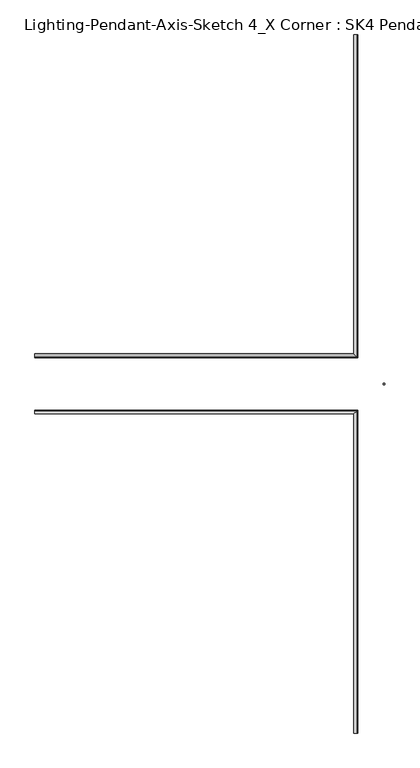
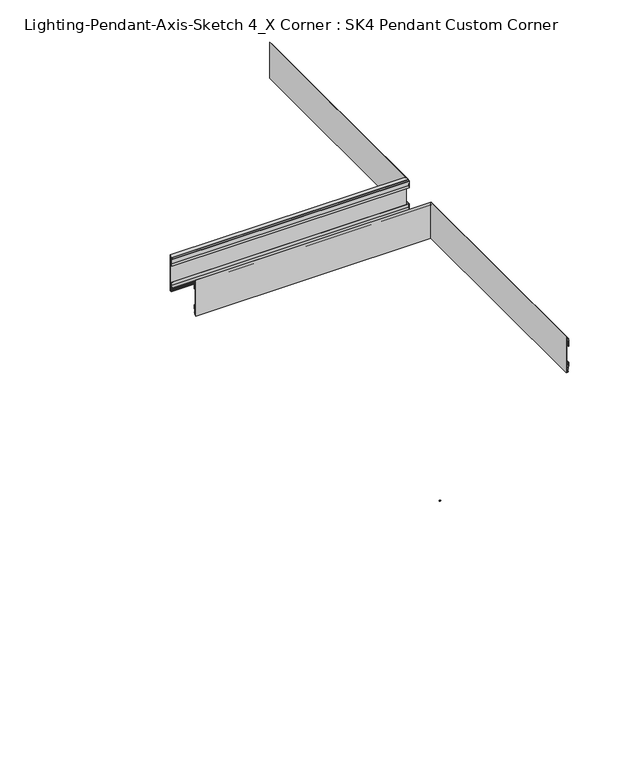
"""IFC4 building model written with IfcOpenShell, lengths in millimetres: light fixture geometry, Lighting-Pendant-Axis-Sketch 4_X Corner : SK4 Pendant Custom Corner."""

from ifc_helpers import new_model, si_unit, point, frame, origin, origin_2d, place, context, project, spatial, polyline, circle_curve, ellipse_curve, trimmed, segment, composite_curve, outline, extrude, faceted_brep, source, transform, mapped, element, save
from ifc_brep_helpers import plane_surface, cylinder_surface, revolved_surface, advanced_brep


def lighting_pendant_axis_sketch_4_x_corner_sk4_pendant_custom_94ffdf92(model_context):
    return source(origin(), model_context, "Body", "SolidModel", [
        faceted_brep([(-609.6, -52.387502, 608.1183333), (-609.6, -52.387502, 698.5705614), (-609.6, -47.9424983, 694.1255577), (-609.6, -50.4824984, 694.1255577), (-609.6, -50.4824984, 610.0233333), (-609.6, -48.5749867, 610.0233333), (-609.6, -48.5749867, 611.2933333), (-609.6, -47.3074984, 611.2933333), (-609.6, -47.3074984, 609.6312495), (-609.6, -48.8649121, 608.1183333), (-52.387502, -609.6, 608.1183333), (-48.8649121, -609.6, 608.1183333), (-47.3074984, -609.6, 609.6312495), (-47.3074984, -609.6, 611.2933333), (-48.5749867, -609.6, 611.2933333), (-48.5749867, -609.6, 610.0233333), (-50.4824984, -609.6, 610.0233333), (-50.4824984, -609.6, 694.1255577), (-47.9424983, -609.6, 694.1255577), (-52.387502, -609.6, 698.5705614), (-52.387502, -52.387502, 608.1183333), (-52.387502, -52.387502, 698.5705614), (-47.9424983, -47.9424983, 694.1255577), (-50.4824984, -50.4824984, 694.1255577), (-50.4824984, -50.4824984, 610.0233333), (-48.5749867, -48.5749867, 610.0233333), (-48.5749867, -48.5749867, 611.2933333), (-47.3074984, -47.3074984, 611.2933333), (-47.3074984, -47.3074984, 609.6312495), (-48.8649121, -48.8649121, 608.1183333)], [[[0, 1, 2, 3, 4, 5, 6, 7, 8, 9]], [[10, 11, 12, 13, 14, 15, 16, 17, 18, 19]], [[1, 0, 20, 21]], [[2, 1, 21, 22]], [[3, 2, 22, 18, 17, 23]], [[4, 3, 23, 24]], [[5, 4, 24, 16, 15, 25]], [[6, 5, 25, 26]], [[7, 6, 26, 14, 13, 27]], [[8, 7, 27, 28]], [[9, 8, 28, 29]], [[0, 9, 29, 11, 10, 20]], [[21, 20, 10, 19]], [[22, 21, 19, 18]], [[24, 23, 17, 16]], [[26, 25, 15, 14]], [[28, 27, 13, 12]], [[29, 28, 12, 11]]]),
        advanced_brep(
        [(-609.6, -47.7623797, 617.2181133), (-609.6, -47.203689, 626.6227718), (-609.6, -47.1663883, 632.7774986), (-609.6, -46.1433321, 632.7774986), (-609.6, -46.2138897, 626.1805556), (-609.6, -46.8043106, 616.3008472), (-609.6, -48.3048304, 616.3008472), (-609.6, -48.9655543, 615.7383333), (-609.6, -48.9062894, 614.1085157), (-609.6, -46.5723819, 614.1933833), (-609.6, -48.2952793, 612.3516667), (-609.6, -49.9180536, 613.3747222), (-609.6, -49.9533335, 615.7030556), (-47.7623797, -609.6, 617.2181133), (-49.9533335, -609.6, 615.7030556), (-49.9180536, -609.6, 613.3747222), (-48.2952793, -609.6, 612.3516667), (-46.5723819, -609.6, 614.1933833), (-48.9062894, -609.6, 614.1085157), (-48.9655543, -609.6, 615.7383333), (-48.3048304, -609.6, 616.3008472), (-46.8043106, -609.6, 616.3008472), (-46.2138897, -609.6, 626.1805556), (-46.1433321, -609.6, 632.7774986), (-47.1663883, -609.6, 632.7774986), (-47.203689, -609.6, 626.6227718), (-47.7623797, -47.7623797, 617.2181133), (-47.203689, -47.203689, 626.6227718), (-47.1663883, -47.1663883, 632.7774986), (-46.1433321, -46.1433321, 632.7774986), (-46.2138897, -46.2138897, 626.1805556), (-46.8043106, -46.8043106, 616.3008472), (-48.3048304, -48.3048304, 616.3008472), (-48.9655543, -48.9655543, 615.7383333), (-48.9062894, -48.9062894, 614.1085157), (-46.5723819, -46.5723819, 614.1933833), (-48.2952793, -48.2952793, 612.3516667), (-49.9180536, -49.9180536, 613.3747222), (-49.9533335, -49.9533335, 615.7030556)],
        [
            (0, 1),
            (1, 2),
            (2, 3),
            (3, 4),
            (4, 5),
            (5, 6),
            (6, 7, circle_curve(frame((-609.6, -48.3048304, 615.63155), z_axis=(1.0, 0.0, 0.0), x_axis=(0.0, 1.0, 0.0)), 0.6692972)),
            (7, 8),
            (8, 9),
            (9, 10),
            (10, 11, circle_curve(frame((-609.6, -48.7732449, 613.3920688), z_axis=(-1.0, 0.0, 0.0), x_axis=(0.0, 1.0, 0.0)), 1.1449401)),
            (11, 12),
            (12, 0, circle_curve(frame((-609.6, -48.3340208, 615.7030556), z_axis=(-1.0, 0.0, 0.0), x_axis=(0.0, 1.0, 0.0)), 1.6193127)),
            (13, 14, circle_curve(frame((-48.3340208, -609.6, 615.7030556), z_axis=(0.0, -1.0, 0.0), x_axis=(1.0, 0.0, 0.0)), 1.6193127)),
            (14, 15),
            (15, 16, circle_curve(frame((-48.7732449, -609.6, 613.3920688), z_axis=(0.0, -1.0, 0.0), x_axis=(1.0, 0.0, 0.0)), 1.1449401)),
            (16, 17),
            (17, 18),
            (18, 19),
            (19, 20, circle_curve(frame((-48.3048304, -609.6, 615.63155), z_axis=(0.0, 1.0, 0.0), x_axis=(1.0, 0.0, 0.0)), 0.6692972)),
            (20, 21),
            (21, 22),
            (22, 23),
            (23, 24),
            (24, 25),
            (25, 13),
            (0, 26),
            (26, 27),
            (27, 1),
            (27, 28),
            (28, 2),
            (28, 24),
            (23, 29),
            (29, 3),
            (29, 30),
            (30, 4),
            (30, 31),
            (31, 5),
            (31, 21),
            (20, 32),
            (32, 6),
            (32, 33, ellipse_curve(frame((-48.3048304, -48.3048304, 615.63155), z_axis=(0.7071067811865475, -0.7071067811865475, 0.0), x_axis=(0.7071067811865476, 0.7071067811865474, 0.0)), 0.9465291, 0.6692972)),
            (33, 7),
            (33, 34),
            (34, 8),
            (34, 35),
            (35, 9),
            (35, 36),
            (36, 10),
            (36, 37, ellipse_curve(frame((-48.7732449, -48.7732449, 613.3920688), z_axis=(-0.7071067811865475, 0.7071067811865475, 0.0), x_axis=(-0.7071067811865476, -0.7071067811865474, 0.0)), 1.6191898, 1.1449401)),
            (37, 11),
            (37, 38),
            (38, 12),
            (38, 26, ellipse_curve(frame((-48.3340208, -48.3340208, 615.7030556), z_axis=(-0.7071067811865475, 0.7071067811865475, 0.0), x_axis=(-0.7071067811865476, -0.7071067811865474, 0.0)), 2.290054, 1.6193127)),
            (26, 13),
            (25, 27),
            (22, 30),
            (19, 33),
            (18, 34),
            (17, 35),
            (16, 36),
            (15, 37),
            (14, 38),
        ],
        [
            plane_surface(frame((-609.6, 0.0, 609.6), z_axis=(-1.0, 0.0, 0.0), x_axis=(0.0, 0.0, 1.0))),
            plane_surface(frame((0.0, -609.6, 609.6), z_axis=(0.0, -1.0, 0.0), x_axis=(0.0, 0.0, 1.0))),
            plane_surface(frame((-609.6, -47.7623797, 617.2181133), z_axis=(0.0, -0.9982401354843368, 0.05930119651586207), x_axis=(1.0, 0.0, 0.0))),
            plane_surface(frame((-609.6, -47.203689, 626.6227718), z_axis=(0.0, -0.999981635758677, 0.006060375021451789), x_axis=(1.0, 0.0, 0.0))),
            plane_surface(frame((-609.6, -47.1663883, 632.7774986), z_axis=(0.0, 0.0, 1.0), x_axis=(1.0, 0.0, 0.0))),
            plane_surface(frame((-609.6, -46.1433321, 632.7774986), z_axis=(0.0, 0.9999428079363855, -0.010694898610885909), x_axis=(1.0, 0.0, 0.0))),
            plane_surface(frame((-609.6, -46.2138897, 626.1805556), z_axis=(0.0, 0.998219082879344, -0.05965452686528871), x_axis=(1.0, 0.0, 0.0))),
            plane_surface(frame((-609.6, -46.8043106, 616.3008472), z_axis=(0.0, 0.0, -1.0), x_axis=(1.0, 0.0, 0.0))),
            revolved_surface(polyline([(-47.63553325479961, -47.6355332, 615.63155), (-609.6, -47.6355332, 615.63155)]), (-609.6, -48.3048304, 615.63155), (1.0, 0.0, 0.0)),
            plane_surface(frame((-609.6, -48.9655543, 615.7383333), z_axis=(0.0, 0.9993395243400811, 0.03633889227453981), x_axis=(1.0, 0.0, 0.0))),
            plane_surface(frame((-609.6, -48.9062894, 614.1085157), z_axis=(0.0, -0.036338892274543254, 0.9993395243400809), x_axis=(1.0, 0.0, 0.0))),
            plane_surface(frame((-609.6, -46.5723819, 614.1933833), z_axis=(0.0, 0.730271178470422, -0.6831573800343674), x_axis=(1.0, 0.0, 0.0))),
            cylinder_surface(frame((-609.6, -48.7732449, 613.3920688), z_axis=(-1.0, 0.0, 0.0), x_axis=(0.0, 1.0, 0.0)), 1.1449401),
            plane_surface(frame((-609.6, -49.9180536, 613.3747222), z_axis=(0.0, -0.9998852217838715, -0.015150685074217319), x_axis=(1.0, 0.0, 0.0))),
            cylinder_surface(frame((-609.6, -48.3340208, 615.7030556), z_axis=(-1.0, 0.0, 0.0), x_axis=(0.0, 1.0, 0.0)), 1.6193127),
            plane_surface(frame((-47.7623797, -47.7623797, 617.2181133), z_axis=(-0.9982401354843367, 0.0, 0.05930119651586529), x_axis=(0.0, -1.0, 0.0))),
            plane_surface(frame((-47.203689, -47.203689, 626.6227718), z_axis=(-0.999981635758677, 0.0, 0.006060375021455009), x_axis=(0.0, -1.0, 0.0))),
            plane_surface(frame((-46.1433321, -46.1433321, 632.7774986), z_axis=(0.9999428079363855, 0.0, -0.010694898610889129), x_axis=(0.0, -1.0, 0.0))),
            plane_surface(frame((-46.2138897, -46.2138897, 626.1805556), z_axis=(0.9982190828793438, 0.0, -0.05965452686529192), x_axis=(0.0, -1.0, 0.0))),
            revolved_surface(polyline([(-47.6355332, -609.6, 615.63155), (-47.6355332, -47.6355332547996, 615.63155)]), (-48.3048304, 0.0, 615.63155), (0.0, -1.0, 0.0)),
            plane_surface(frame((-48.9655543, -48.9655543, 615.7383333), z_axis=(0.9993395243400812, 0.0, 0.03633889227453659), x_axis=(0.0, -1.0, 0.0))),
            plane_surface(frame((-48.9062894, -48.9062894, 614.1085157), z_axis=(-0.03633889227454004, 0.0, 0.9993395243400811), x_axis=(0.0, -1.0, 0.0))),
            plane_surface(frame((-46.5723819, -46.5723819, 614.1933833), z_axis=(0.7302711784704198, 0.0, -0.6831573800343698), x_axis=(0.0, -1.0, 0.0))),
            cylinder_surface(frame((-48.7732449, 0.0, 613.3920688), z_axis=(0.0, 1.0, 0.0), x_axis=(1.0, 0.0, 0.0)), 1.1449401),
            plane_surface(frame((-49.9180536, -49.9180536, 613.3747222), z_axis=(-0.9998852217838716, 0.0, -0.0151506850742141), x_axis=(0.0, -1.0, 0.0))),
            cylinder_surface(frame((-48.3340208, 0.0, 615.7030556), z_axis=(0.0, 1.0, 0.0), x_axis=(1.0, 0.0, 0.0)), 1.6193127),
        ],
        [
            (0, [[1, 2, 3, 4, 5, 6, 7, 8, 9, 10, 11, 12, 13]]),
            (1, [[14, 15, 16, 17, 18, 19, 20, 21, 22, 23, 24, 25, 26]]),
            (2, [[-1, 27, 28, 29]]),
            (3, [[-2, -29, 30, 31]]),
            (4, [[-3, -31, 32, -24, 33, 34]]),
            (5, [[-4, -34, 35, 36]]),
            (6, [[-5, -36, 37, 38]]),
            (7, [[-6, -38, 39, -21, 40, 41]]),
            (8, [[-7, -41, 42, 43]]),
            (9, [[-8, -43, 44, 45]]),
            (10, [[-9, -45, 46, 47]]),
            (11, [[-10, -47, 48, 49]]),
            (12, [[-11, -49, 50, 51]]),
            (13, [[-12, -51, 52, 53]]),
            (14, [[-13, -53, 54, -27]]),
            (15, [[-28, 55, -26, 56]]),
            (16, [[-30, -56, -25, -32]]),
            (17, [[-35, -33, -23, 57]]),
            (18, [[-37, -57, -22, -39]]),
            (19, [[-42, -40, -20, 58]]),
            (20, [[-44, -58, -19, 59]]),
            (21, [[-46, -59, -18, 60]]),
            (22, [[-48, -60, -17, 61]]),
            (23, [[-50, -61, -16, 62]]),
            (24, [[-52, -62, -15, 63]]),
            (25, [[-54, -63, -14, -55]]),
        ],
    ),
        advanced_brep(
        [(-609.6, -47.1044268, 679.4782704), (-609.6, -47.2795148, 688.3201765), (-609.6, -49.4241668, 690.1038875), (-609.6, -49.2830578, 692.4322236), (-609.6, -47.6250008, 693.3847222), (-609.6, -45.9802057, 691.5049613), (-609.6, -48.3121579, 691.6345118), (-609.6, -48.4283489, 689.5430339), (-609.6, -46.305025, 689.3731705), (-609.6, -46.1087781, 679.4627439), (-609.6, -46.318589, 672.9236111), (-609.6, -47.3427772, 672.9236111), (-47.1044268, -609.6, 679.4782704), (-47.3427772, -609.6, 672.9236111), (-46.318589, -609.6, 672.9236111), (-46.1087781, -609.6, 679.4627439), (-46.305025, -609.6, 689.3731705), (-48.4283489, -609.6, 689.5430339), (-48.3121579, -609.6, 691.6345118), (-45.9802057, -609.6, 691.5049613), (-47.6250008, -609.6, 693.3847222), (-49.2830578, -609.6, 692.4322236), (-49.4241668, -609.6, 690.1038875), (-47.2795148, -609.6, 688.3201765), (-47.1044268, -47.1044268, 679.4782704), (-47.2795148, -47.2795148, 688.3201765), (-49.4241668, -49.4241668, 690.1038875), (-49.2830578, -49.2830578, 692.4322236), (-47.6250008, -47.6250008, 693.3847222), (-45.9802057, -45.9802057, 691.5049613), (-48.3121579, -48.3121579, 691.6345118), (-48.4283489, -48.4283489, 689.5430339), (-46.305025, -46.305025, 689.3731705), (-46.1087781, -46.1087781, 679.4627439), (-46.318589, -46.318589, 672.9236111), (-47.3427772, -47.3427772, 672.9236111)],
        [
            (0, 1),
            (1, 2, circle_curve(frame((-609.6, -47.6971346, 689.9992206), z_axis=(-1.0, 0.0, 0.0), x_axis=(0.0, 1.0, 0.0)), 1.730201)),
            (2, 3),
            (3, 4, circle_curve(frame((-609.6, -48.1406669, 692.3629889), z_axis=(-1.0, 0.0, 0.0), x_axis=(0.0, 1.0, 0.0)), 1.144487)),
            (4, 5),
            (5, 6),
            (6, 7),
            (7, 8),
            (8, 9),
            (9, 10),
            (10, 11),
            (11, 0),
            (12, 13),
            (13, 14),
            (14, 15),
            (15, 16),
            (16, 17),
            (17, 18),
            (18, 19),
            (19, 20),
            (20, 21, circle_curve(frame((-48.1406669, -609.6, 692.3629889), z_axis=(0.0, -1.0, 0.0), x_axis=(1.0, 0.0, 0.0)), 1.144487)),
            (21, 22),
            (22, 23, circle_curve(frame((-47.6971346, -609.6, 689.9992206), z_axis=(0.0, -1.0, 0.0), x_axis=(1.0, 0.0, 0.0)), 1.730201)),
            (23, 12),
            (0, 24),
            (24, 25),
            (25, 1),
            (25, 26, ellipse_curve(frame((-47.6971346, -47.6971346, 689.9992206), z_axis=(-0.7071067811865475, 0.7071067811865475, 0.0), x_axis=(-0.7071067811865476, -0.7071067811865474, 0.0)), 2.4468737, 1.730201)),
            (26, 2),
            (26, 27),
            (27, 3),
            (27, 28, ellipse_curve(frame((-48.1406669, -48.1406669, 692.3629889), z_axis=(-0.7071067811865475, 0.7071067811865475, 0.0), x_axis=(-0.7071067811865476, -0.7071067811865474, 0.0)), 1.618549, 1.144487)),
            (28, 4),
            (28, 29),
            (29, 5),
            (29, 30),
            (30, 6),
            (30, 31),
            (31, 7),
            (31, 32),
            (32, 8),
            (32, 33),
            (33, 9),
            (33, 34),
            (34, 10),
            (34, 14),
            (13, 35),
            (35, 11),
            (35, 24),
            (24, 12),
            (23, 25),
            (22, 26),
            (21, 27),
            (20, 28),
            (19, 29),
            (18, 30),
            (17, 31),
            (16, 32),
            (15, 33),
        ],
        [
            plane_surface(frame((-609.6, 0.0, 609.6), z_axis=(-1.0, 0.0, 0.0), x_axis=(0.0, 0.0, 1.0))),
            plane_surface(frame((0.0, -609.6, 609.6), z_axis=(0.0, -1.0, 0.0), x_axis=(0.0, 0.0, 1.0))),
            plane_surface(frame((-609.6, -47.1044268, 679.4782704), z_axis=(0.0, -0.9998039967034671, -0.01979818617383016), x_axis=(1.0, 0.0, 0.0))),
            cylinder_surface(frame((-609.6, -47.6971346, 689.9992206), z_axis=(-1.0, 0.0, 0.0), x_axis=(0.0, 1.0, 0.0)), 1.730201),
            plane_surface(frame((-609.6, -49.4241668, 690.1038875), z_axis=(0.0, -0.9981685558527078, 0.06049408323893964), x_axis=(1.0, 0.0, 0.0))),
            cylinder_surface(frame((-609.6, -48.1406669, 692.3629889), z_axis=(-1.0, 0.0, 0.0), x_axis=(0.0, 1.0, 0.0)), 1.144487),
            plane_surface(frame((-609.6, -47.6250008, 693.3847222), z_axis=(0.0, 0.7525758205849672, 0.6585056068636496), x_axis=(1.0, 0.0, 0.0))),
            plane_surface(frame((-609.6, -45.9802057, 691.5049613), z_axis=(0.0, -0.055468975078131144, -0.9984604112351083), x_axis=(1.0, 0.0, 0.0))),
            plane_surface(frame((-609.6, -48.3121579, 691.6345118), z_axis=(0.0, 0.9984604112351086, -0.05546897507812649), x_axis=(1.0, 0.0, 0.0))),
            plane_surface(frame((-609.6, -48.4283489, 689.5430339), z_axis=(0.0, 0.07974403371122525, 0.996815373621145), x_axis=(1.0, 0.0, 0.0))),
            plane_surface(frame((-609.6, -46.305025, 689.3731705), z_axis=(0.0, 0.9998039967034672, 0.01979818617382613), x_axis=(1.0, 0.0, 0.0))),
            plane_surface(frame((-609.6, -46.1087781, 679.4627439), z_axis=(0.0, 0.9994856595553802, -0.03206893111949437), x_axis=(1.0, 0.0, 0.0))),
            plane_surface(frame((-609.6, -46.318589, 672.9236111), z_axis=(0.0, 0.0, -1.0), x_axis=(1.0, 0.0, 0.0))),
            plane_surface(frame((-609.6, -47.3427772, 672.9236111), z_axis=(0.0, -0.9993395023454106, 0.03633949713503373), x_axis=(1.0, 0.0, 0.0))),
            plane_surface(frame((-47.1044268, -47.1044268, 679.4782704), z_axis=(-0.9998039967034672, 0.0, -0.01979818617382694), x_axis=(0.0, -1.0, 0.0))),
            cylinder_surface(frame((-47.6971346, 0.0, 689.9992206), z_axis=(0.0, 1.0, 0.0), x_axis=(1.0, 0.0, 0.0)), 1.730201),
            plane_surface(frame((-49.4241668, -49.4241668, 690.1038875), z_axis=(-0.9981685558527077, 0.0, 0.06049408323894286), x_axis=(0.0, -1.0, 0.0))),
            cylinder_surface(frame((-48.1406669, 0.0, 692.3629889), z_axis=(0.0, 1.0, 0.0), x_axis=(1.0, 0.0, 0.0)), 1.144487),
            plane_surface(frame((-47.6250008, -47.6250008, 693.3847222), z_axis=(0.7525758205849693, 0.0, 0.6585056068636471), x_axis=(0.0, -1.0, 0.0))),
            plane_surface(frame((-45.9802057, -45.9802057, 691.5049613), z_axis=(-0.055468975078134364, 0.0, -0.9984604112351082), x_axis=(0.0, -1.0, 0.0))),
            plane_surface(frame((-48.3121579, -48.3121579, 691.6345118), z_axis=(0.9984604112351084, 0.0, -0.0554689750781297), x_axis=(0.0, -1.0, 0.0))),
            plane_surface(frame((-48.4283489, -48.4283489, 689.5430339), z_axis=(0.07974403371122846, 0.0, 0.9968153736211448), x_axis=(0.0, -1.0, 0.0))),
            plane_surface(frame((-46.305025, -46.305025, 689.3731705), z_axis=(0.9998039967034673, 0.0, 0.01979818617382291), x_axis=(0.0, -1.0, 0.0))),
            plane_surface(frame((-46.1087781, -46.1087781, 679.4627439), z_axis=(0.99948565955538, 0.0, -0.03206893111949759), x_axis=(0.0, -1.0, 0.0))),
            plane_surface(frame((-47.3427772, -47.3427772, 672.9236111), z_axis=(-0.9993395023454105, 0.0, 0.03633949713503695), x_axis=(0.0, -1.0, 0.0))),
        ],
        [
            (0, [[1, 2, 3, 4, 5, 6, 7, 8, 9, 10, 11, 12]]),
            (1, [[13, 14, 15, 16, 17, 18, 19, 20, 21, 22, 23, 24]]),
            (2, [[-1, 25, 26, 27]]),
            (3, [[-2, -27, 28, 29]]),
            (4, [[-3, -29, 30, 31]]),
            (5, [[-4, -31, 32, 33]]),
            (6, [[-5, -33, 34, 35]]),
            (7, [[-6, -35, 36, 37]]),
            (8, [[-7, -37, 38, 39]]),
            (9, [[-8, -39, 40, 41]]),
            (10, [[-9, -41, 42, 43]]),
            (11, [[-10, -43, 44, 45]]),
            (12, [[-11, -45, 46, -14, 47, 48]]),
            (13, [[-12, -48, 49, -25]]),
            (14, [[-26, 50, -24, 51]]),
            (15, [[-28, -51, -23, 52]]),
            (16, [[-30, -52, -22, 53]]),
            (17, [[-32, -53, -21, 54]]),
            (18, [[-34, -54, -20, 55]]),
            (19, [[-36, -55, -19, 56]]),
            (20, [[-38, -56, -18, 57]]),
            (21, [[-40, -57, -17, 58]]),
            (22, [[-42, -58, -16, 59]]),
            (23, [[-44, -59, -15, -46]]),
            (24, [[-49, -47, -13, -50]]),
        ],
    ),
        faceted_brep([(-52.387502, 609.6, 608.1183333), (-52.387502, 609.6, 698.5705614), (-47.9424983, 609.6, 694.1255577), (-50.4824984, 609.6, 694.1255577), (-50.4824984, 609.6, 610.0233333), (-48.5749867, 609.6, 610.0233333), (-48.5749867, 609.6, 611.2933333), (-47.3074984, 609.6, 611.2933333), (-47.3074984, 609.6, 609.6312495), (-48.8649121, 609.6, 608.1183333), (-52.387502, 52.387502, 608.1183333), (-52.387502, 52.387502, 698.5705614), (-47.9424983, 47.9424983, 694.1255577), (-609.6, 47.9424983, 694.1255577), (-609.6, 50.4824984, 694.1255577), (-50.4824984, 50.4824984, 694.1255577), (-50.4824984, 50.4824984, 610.0233333), (-609.6, 50.4824984, 610.0233333), (-609.6, 48.5749867, 610.0233333), (-48.5749867, 48.5749867, 610.0233333), (-48.5749867, 48.5749867, 611.2933333), (-609.6, 48.5749867, 611.2933333), (-609.6, 47.3074984, 611.2933333), (-47.3074984, 47.3074984, 611.2933333), (-47.3074984, 47.3074984, 609.6312495), (-48.8649121, 48.8649121, 608.1183333), (-609.6, 48.8649121, 608.1183333), (-609.6, 52.387502, 608.1183333), (-609.6, 47.3074984, 609.6312495), (-609.6, 52.387502, 698.5705614)], [[[0, 1, 2, 3, 4, 5, 6, 7, 8, 9]], [[1, 0, 10, 11]], [[2, 1, 11, 12]], [[3, 2, 12, 13, 14, 15]], [[4, 3, 15, 16]], [[5, 4, 16, 17, 18, 19]], [[6, 5, 19, 20]], [[7, 6, 20, 21, 22, 23]], [[8, 7, 23, 24]], [[9, 8, 24, 25]], [[0, 9, 25, 26, 27, 10]], [[27, 26, 28, 22, 21, 18, 17, 14, 13, 29]], [[11, 10, 27, 29]], [[12, 11, 29, 13]], [[16, 15, 14, 17]], [[20, 19, 18, 21]], [[24, 23, 22, 28]], [[25, 24, 28, 26]]]),
        advanced_brep(
        [(-47.7623797, 609.6, 617.2181133), (-47.203689, 609.6, 626.6227718), (-47.1663883, 609.6, 632.7774986), (-46.1433321, 609.6, 632.7774986), (-46.2138897, 609.6, 626.1805556), (-46.8043106, 609.6, 616.3008472), (-48.3048304, 609.6, 616.3008472), (-48.9655543, 609.6, 615.7383333), (-48.9062894, 609.6, 614.1085157), (-46.5723819, 609.6, 614.1933833), (-48.2952793, 609.6, 612.3516667), (-49.9180536, 609.6, 613.3747222), (-49.9533335, 609.6, 615.7030556), (-47.7623797, 47.7623797, 617.2181133), (-47.203689, 47.203689, 626.6227718), (-47.1663883, 47.1663883, 632.7774986), (-609.6, 47.1663883, 632.7774986), (-609.6, 46.1433321, 632.7774986), (-46.1433321, 46.1433321, 632.7774986), (-46.2138897, 46.2138897, 626.1805556), (-46.8043106, 46.8043106, 616.3008472), (-609.6, 46.8043106, 616.3008472), (-609.6, 48.3048304, 616.3008472), (-48.3048304, 48.3048304, 616.3008472), (-48.9655543, 48.9655543, 615.7383333), (-48.9062894, 48.9062894, 614.1085157), (-46.5723819, 46.5723819, 614.1933833), (-48.2952793, 48.2952793, 612.3516667), (-49.9180536, 49.9180536, 613.3747222), (-49.9533335, 49.9533335, 615.7030556), (-609.6, 47.7623797, 617.2181133), (-609.6, 49.9533335, 615.7030556), (-609.6, 49.9180536, 613.3747222), (-609.6, 48.2952793, 612.3516667), (-609.6, 46.5723819, 614.1933833), (-609.6, 48.9062894, 614.1085157), (-609.6, 48.9655543, 615.7383333), (-609.6, 46.2138897, 626.1805556), (-609.6, 47.203689, 626.6227718)],
        [
            (0, 1),
            (1, 2),
            (2, 3),
            (3, 4),
            (4, 5),
            (5, 6),
            (6, 7, circle_curve(frame((-48.3048304, 609.6, 615.63155), z_axis=(0.0, -1.0, 0.0), x_axis=(1.0, 0.0, 0.0)), 0.6692972)),
            (7, 8),
            (8, 9),
            (9, 10),
            (10, 11, circle_curve(frame((-48.7732449, 609.6, 613.3920688), z_axis=(0.0, 1.0, 0.0), x_axis=(1.0, 0.0, 0.0)), 1.1449401)),
            (11, 12),
            (12, 0, circle_curve(frame((-48.3340208, 609.6, 615.7030556), z_axis=(0.0, 1.0, 0.0), x_axis=(1.0, 0.0, 0.0)), 1.6193127)),
            (0, 13),
            (13, 14),
            (14, 1),
            (14, 15),
            (15, 2),
            (15, 16),
            (16, 17),
            (17, 18),
            (18, 3),
            (18, 19),
            (19, 4),
            (19, 20),
            (20, 5),
            (20, 21),
            (21, 22),
            (22, 23),
            (23, 6),
            (23, 24, ellipse_curve(frame((-48.3048304, 48.3048304, 615.63155), z_axis=(-0.7071067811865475, -0.7071067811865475, 0.0), x_axis=(0.7071067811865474, -0.7071067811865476, 0.0)), 0.9465291, 0.6692972)),
            (24, 7),
            (24, 25),
            (25, 8),
            (25, 26),
            (26, 9),
            (26, 27),
            (27, 10),
            (27, 28, ellipse_curve(frame((-48.7732449, 48.7732449, 613.3920688), z_axis=(0.7071067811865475, 0.7071067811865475, 0.0), x_axis=(-0.7071067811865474, 0.7071067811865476, 0.0)), 1.6191898, 1.1449401)),
            (28, 11),
            (28, 29),
            (29, 12),
            (29, 13, ellipse_curve(frame((-48.3340208, 48.3340208, 615.7030556), z_axis=(0.7071067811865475, 0.7071067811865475, 0.0), x_axis=(-0.7071067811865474, 0.7071067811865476, 0.0)), 2.290054, 1.6193127)),
            (30, 31, circle_curve(frame((-609.6, 48.3340208, 615.7030556), z_axis=(-1.0, 0.0, 0.0), x_axis=(0.0, -1.0, 0.0)), 1.6193127)),
            (31, 32),
            (32, 33, circle_curve(frame((-609.6, 48.7732449, 613.3920688), z_axis=(-1.0, 0.0, 0.0), x_axis=(0.0, -1.0, 0.0)), 1.1449401)),
            (33, 34),
            (34, 35),
            (35, 36),
            (36, 22, circle_curve(frame((-609.6, 48.3048304, 615.63155), z_axis=(1.0, 0.0, 0.0), x_axis=(0.0, -1.0, 0.0)), 0.6692972)),
            (21, 37),
            (37, 17),
            (16, 38),
            (38, 30),
            (13, 30),
            (38, 14),
            (37, 19),
            (36, 24),
            (35, 25),
            (34, 26),
            (33, 27),
            (32, 28),
            (31, 29),
        ],
        [
            plane_surface(frame((0.0, 609.6, 609.6), z_axis=(0.0, 1.0, 0.0), x_axis=(0.0, 0.0, 1.0))),
            plane_surface(frame((-47.7623797, 609.6, 617.2181133), z_axis=(-0.9982401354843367, 0.0, 0.059301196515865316), x_axis=(0.0, -1.0, 0.0))),
            plane_surface(frame((-47.203689, 609.6, 626.6227718), z_axis=(-0.999981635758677, 0.0, 0.006060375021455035), x_axis=(0.0, -1.0, 0.0))),
            plane_surface(frame((-47.1663883, 609.6, 632.7774986), z_axis=(0.0, 0.0, 1.0), x_axis=(0.0, -1.0, 0.0))),
            plane_surface(frame((-46.1433321, 609.6, 632.7774986), z_axis=(0.9999428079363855, 0.0, -0.010694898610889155), x_axis=(0.0, -1.0, 0.0))),
            plane_surface(frame((-46.2138897, 609.6, 626.1805556), z_axis=(0.9982190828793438, 0.0, -0.05965452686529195), x_axis=(0.0, -1.0, 0.0))),
            plane_surface(frame((-46.8043106, 609.6, 616.3008472), z_axis=(0.0, 0.0, -1.0), x_axis=(0.0, -1.0, 0.0))),
            revolved_surface(polyline([(-47.6355332, 47.63553325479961, 615.63155), (-47.6355332, 609.6, 615.63155)]), (-48.3048304, 609.6, 615.63155), (0.0, -1.0, 0.0)),
            plane_surface(frame((-48.9655543, 609.6, 615.7383333), z_axis=(0.9993395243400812, 0.0, 0.03633889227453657), x_axis=(0.0, -1.0, 0.0))),
            plane_surface(frame((-48.9062894, 609.6, 614.1085157), z_axis=(-0.03633889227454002, 0.0, 0.9993395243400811), x_axis=(0.0, -1.0, 0.0))),
            plane_surface(frame((-46.5723819, 609.6, 614.1933833), z_axis=(0.7302711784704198, 0.0, -0.6831573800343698), x_axis=(0.0, -1.0, 0.0))),
            cylinder_surface(frame((-48.7732449, 609.6, 613.3920688), z_axis=(0.0, 1.0, 0.0), x_axis=(1.0, 0.0, 0.0)), 1.1449401),
            plane_surface(frame((-49.9180536, 609.6, 613.3747222), z_axis=(-0.9998852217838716, 0.0, -0.015150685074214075), x_axis=(0.0, -1.0, 0.0))),
            cylinder_surface(frame((-48.3340208, 609.6, 615.7030556), z_axis=(0.0, 1.0, 0.0), x_axis=(1.0, 0.0, 0.0)), 1.6193127),
            plane_surface(frame((-609.6, 0.0, 609.6), z_axis=(-1.0, 0.0, 0.0), x_axis=(0.0, 0.0, 1.0))),
            plane_surface(frame((-47.7623797, 47.7623797, 617.2181133), z_axis=(0.0, 0.9982401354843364, 0.05930119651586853), x_axis=(-1.0, 0.0, 0.0))),
            plane_surface(frame((-47.203689, 47.203689, 626.6227718), z_axis=(0.0, 0.999981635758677, 0.006060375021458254), x_axis=(-1.0, 0.0, 0.0))),
            plane_surface(frame((-46.1433321, 46.1433321, 632.7774986), z_axis=(0.0, -0.9999428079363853, -0.010694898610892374), x_axis=(-1.0, 0.0, 0.0))),
            plane_surface(frame((-46.2138897, 46.2138897, 626.1805556), z_axis=(0.0, -0.9982190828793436, -0.05965452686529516), x_axis=(-1.0, 0.0, 0.0))),
            revolved_surface(polyline([(-609.6, 47.6355332, 615.63155), (-47.6355332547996, 47.6355332, 615.63155)]), (0.0, 48.3048304, 615.63155), (-1.0, 0.0, 0.0)),
            plane_surface(frame((-48.9655543, 48.9655543, 615.7383333), z_axis=(0.0, -0.9993395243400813, 0.03633889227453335), x_axis=(-1.0, 0.0, 0.0))),
            plane_surface(frame((-48.9062894, 48.9062894, 614.1085157), z_axis=(0.0, 0.0363388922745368, 0.9993395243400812), x_axis=(-1.0, 0.0, 0.0))),
            plane_surface(frame((-46.5723819, 46.5723819, 614.1933833), z_axis=(0.0, -0.7302711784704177, -0.6831573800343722), x_axis=(-1.0, 0.0, 0.0))),
            cylinder_surface(frame((0.0, 48.7732449, 613.3920688), z_axis=(1.0, 0.0, 0.0), x_axis=(0.0, -1.0, 0.0)), 1.1449401),
            plane_surface(frame((-49.9180536, 49.9180536, 613.3747222), z_axis=(0.0, 0.9998852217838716, -0.015150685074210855), x_axis=(-1.0, 0.0, 0.0))),
            cylinder_surface(frame((0.0, 48.3340208, 615.7030556), z_axis=(1.0, 0.0, 0.0), x_axis=(0.0, -1.0, 0.0)), 1.6193127),
        ],
        [
            (0, [[1, 2, 3, 4, 5, 6, 7, 8, 9, 10, 11, 12, 13]]),
            (1, [[-1, 14, 15, 16]]),
            (2, [[-2, -16, 17, 18]]),
            (3, [[-3, -18, 19, 20, 21, 22]]),
            (4, [[-4, -22, 23, 24]]),
            (5, [[-5, -24, 25, 26]]),
            (6, [[-6, -26, 27, 28, 29, 30]]),
            (7, [[-7, -30, 31, 32]]),
            (8, [[-8, -32, 33, 34]]),
            (9, [[-9, -34, 35, 36]]),
            (10, [[-10, -36, 37, 38]]),
            (11, [[-11, -38, 39, 40]]),
            (12, [[-12, -40, 41, 42]]),
            (13, [[-13, -42, 43, -14]]),
            (14, [[44, 45, 46, 47, 48, 49, 50, -28, 51, 52, -20, 53, 54]]),
            (15, [[-15, 55, -54, 56]]),
            (16, [[-17, -56, -53, -19]]),
            (17, [[-23, -21, -52, 57]]),
            (18, [[-25, -57, -51, -27]]),
            (19, [[-31, -29, -50, 58]]),
            (20, [[-33, -58, -49, 59]]),
            (21, [[-35, -59, -48, 60]]),
            (22, [[-37, -60, -47, 61]]),
            (23, [[-39, -61, -46, 62]]),
            (24, [[-41, -62, -45, 63]]),
            (25, [[-43, -63, -44, -55]]),
        ],
    ),
        advanced_brep(
        [(-47.1044268, 609.6, 679.4782704), (-47.2795148, 609.6, 688.3201765), (-49.4241668, 609.6, 690.1038875), (-49.2830578, 609.6, 692.4322236), (-47.6250008, 609.6, 693.3847222), (-45.9802057, 609.6, 691.5049613), (-48.3121579, 609.6, 691.6345118), (-48.4283489, 609.6, 689.5430339), (-46.305025, 609.6, 689.3731705), (-46.1087781, 609.6, 679.4627439), (-46.318589, 609.6, 672.9236111), (-47.3427772, 609.6, 672.9236111), (-47.1044268, 47.1044268, 679.4782704), (-47.2795148, 47.2795148, 688.3201765), (-49.4241668, 49.4241668, 690.1038875), (-49.2830578, 49.2830578, 692.4322236), (-47.6250008, 47.6250008, 693.3847222), (-45.9802057, 45.9802057, 691.5049613), (-48.3121579, 48.3121579, 691.6345118), (-48.4283489, 48.4283489, 689.5430339), (-46.305025, 46.305025, 689.3731705), (-46.1087781, 46.1087781, 679.4627439), (-46.318589, 46.318589, 672.9236111), (-609.6, 46.318589, 672.9236111), (-609.6, 47.3427772, 672.9236111), (-47.3427772, 47.3427772, 672.9236111), (-609.6, 47.1044268, 679.4782704), (-609.6, 46.1087781, 679.4627439), (-609.6, 46.305025, 689.3731705), (-609.6, 48.4283489, 689.5430339), (-609.6, 48.3121579, 691.6345118), (-609.6, 45.9802057, 691.5049613), (-609.6, 47.6250008, 693.3847222), (-609.6, 49.2830578, 692.4322236), (-609.6, 49.4241668, 690.1038875), (-609.6, 47.2795148, 688.3201765)],
        [
            (0, 1),
            (1, 2, circle_curve(frame((-47.6971346, 609.6, 689.9992206), z_axis=(0.0, 1.0, 0.0), x_axis=(1.0, 0.0, 0.0)), 1.730201)),
            (2, 3),
            (3, 4, circle_curve(frame((-48.1406669, 609.6, 692.3629889), z_axis=(0.0, 1.0, 0.0), x_axis=(1.0, 0.0, 0.0)), 1.144487)),
            (4, 5),
            (5, 6),
            (6, 7),
            (7, 8),
            (8, 9),
            (9, 10),
            (10, 11),
            (11, 0),
            (0, 12),
            (12, 13),
            (13, 1),
            (13, 14, ellipse_curve(frame((-47.6971346, 47.6971346, 689.9992206), z_axis=(0.7071067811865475, 0.7071067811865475, 0.0), x_axis=(-0.7071067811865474, 0.7071067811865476, 0.0)), 2.4468737, 1.730201)),
            (14, 2),
            (14, 15),
            (15, 3),
            (15, 16, ellipse_curve(frame((-48.1406669, 48.1406669, 692.3629889), z_axis=(0.7071067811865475, 0.7071067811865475, 0.0), x_axis=(-0.7071067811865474, 0.7071067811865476, 0.0)), 1.618549, 1.144487)),
            (16, 4),
            (16, 17),
            (17, 5),
            (17, 18),
            (18, 6),
            (18, 19),
            (19, 7),
            (19, 20),
            (20, 8),
            (20, 21),
            (21, 9),
            (21, 22),
            (22, 10),
            (22, 23),
            (23, 24),
            (24, 25),
            (25, 11),
            (25, 12),
            (26, 24),
            (23, 27),
            (27, 28),
            (28, 29),
            (29, 30),
            (30, 31),
            (31, 32),
            (32, 33, circle_curve(frame((-609.6, 48.1406669, 692.3629889), z_axis=(-1.0, 0.0, 0.0), x_axis=(0.0, -1.0, 0.0)), 1.144487)),
            (33, 34),
            (34, 35, circle_curve(frame((-609.6, 47.6971346, 689.9992206), z_axis=(-1.0, 0.0, 0.0), x_axis=(0.0, -1.0, 0.0)), 1.730201)),
            (35, 26),
            (12, 26),
            (35, 13),
            (34, 14),
            (33, 15),
            (32, 16),
            (31, 17),
            (30, 18),
            (29, 19),
            (28, 20),
            (27, 21),
        ],
        [
            plane_surface(frame((0.0, 609.6, 609.6), z_axis=(0.0, 1.0, 0.0), x_axis=(0.0, 0.0, 1.0))),
            plane_surface(frame((-47.1044268, 609.6, 679.4782704), z_axis=(-0.9998039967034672, 0.0, -0.019798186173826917), x_axis=(0.0, -1.0, 0.0))),
            cylinder_surface(frame((-47.6971346, 609.6, 689.9992206), z_axis=(0.0, 1.0, 0.0), x_axis=(1.0, 0.0, 0.0)), 1.730201),
            plane_surface(frame((-49.4241668, 609.6, 690.1038875), z_axis=(-0.9981685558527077, 0.0, 0.06049408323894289), x_axis=(0.0, -1.0, 0.0))),
            cylinder_surface(frame((-48.1406669, 609.6, 692.3629889), z_axis=(0.0, 1.0, 0.0), x_axis=(1.0, 0.0, 0.0)), 1.144487),
            plane_surface(frame((-47.6250008, 609.6, 693.3847222), z_axis=(0.7525758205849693, 0.0, 0.6585056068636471), x_axis=(0.0, -1.0, 0.0))),
            plane_surface(frame((-45.9802057, 609.6, 691.5049613), z_axis=(-0.05546897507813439, 0.0, -0.9984604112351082), x_axis=(0.0, -1.0, 0.0))),
            plane_surface(frame((-48.3121579, 609.6, 691.6345118), z_axis=(0.9984604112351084, 0.0, -0.05546897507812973), x_axis=(0.0, -1.0, 0.0))),
            plane_surface(frame((-48.4283489, 609.6, 689.5430339), z_axis=(0.07974403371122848, 0.0, 0.9968153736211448), x_axis=(0.0, -1.0, 0.0))),
            plane_surface(frame((-46.305025, 609.6, 689.3731705), z_axis=(0.9998039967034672, 0.0, 0.019798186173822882), x_axis=(0.0, -1.0, 0.0))),
            plane_surface(frame((-46.1087781, 609.6, 679.4627439), z_axis=(0.99948565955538, 0.0, -0.03206893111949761), x_axis=(0.0, -1.0, 0.0))),
            plane_surface(frame((-46.318589, 609.6, 672.9236111), z_axis=(0.0, 0.0, -1.0), x_axis=(0.0, -1.0, 0.0))),
            plane_surface(frame((-47.3427772, 609.6, 672.9236111), z_axis=(-0.9993395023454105, 0.0, 0.03633949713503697), x_axis=(0.0, -1.0, 0.0))),
            plane_surface(frame((-609.6, 0.0, 609.6), z_axis=(-1.0, 0.0, 0.0), x_axis=(0.0, 0.0, 1.0))),
            plane_surface(frame((-47.1044268, 47.1044268, 679.4782704), z_axis=(0.0, 0.9998039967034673, -0.019798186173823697), x_axis=(-1.0, 0.0, 0.0))),
            cylinder_surface(frame((0.0, 47.6971346, 689.9992206), z_axis=(1.0, 0.0, 0.0), x_axis=(0.0, -1.0, 0.0)), 1.730201),
            plane_surface(frame((-49.4241668, 49.4241668, 690.1038875), z_axis=(0.0, 0.9981685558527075, 0.0604940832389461), x_axis=(-1.0, 0.0, 0.0))),
            cylinder_surface(frame((0.0, 48.1406669, 692.3629889), z_axis=(1.0, 0.0, 0.0), x_axis=(0.0, -1.0, 0.0)), 1.144487),
            plane_surface(frame((-47.6250008, 47.6250008, 693.3847222), z_axis=(0.0, -0.7525758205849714, 0.6585056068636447), x_axis=(-1.0, 0.0, 0.0))),
            plane_surface(frame((-45.9802057, 45.9802057, 691.5049613), z_axis=(0.0, 0.055468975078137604, -0.998460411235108), x_axis=(-1.0, 0.0, 0.0))),
            plane_surface(frame((-48.3121579, 48.3121579, 691.6345118), z_axis=(0.0, -0.9984604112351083, -0.05546897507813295), x_axis=(-1.0, 0.0, 0.0))),
            plane_surface(frame((-48.4283489, 48.4283489, 689.5430339), z_axis=(0.0, -0.07974403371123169, 0.9968153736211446), x_axis=(-1.0, 0.0, 0.0))),
            plane_surface(frame((-46.305025, 46.305025, 689.3731705), z_axis=(0.0, -0.9998039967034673, 0.019798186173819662), x_axis=(-1.0, 0.0, 0.0))),
            plane_surface(frame((-46.1087781, 46.1087781, 679.4627439), z_axis=(0.0, -0.9994856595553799, -0.03206893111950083), x_axis=(-1.0, 0.0, 0.0))),
            plane_surface(frame((-47.3427772, 47.3427772, 672.9236111), z_axis=(0.0, 0.9993395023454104, 0.03633949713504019), x_axis=(-1.0, 0.0, 0.0))),
        ],
        [
            (0, [[1, 2, 3, 4, 5, 6, 7, 8, 9, 10, 11, 12]]),
            (1, [[-1, 13, 14, 15]]),
            (2, [[-2, -15, 16, 17]]),
            (3, [[-3, -17, 18, 19]]),
            (4, [[-4, -19, 20, 21]]),
            (5, [[-5, -21, 22, 23]]),
            (6, [[-6, -23, 24, 25]]),
            (7, [[-7, -25, 26, 27]]),
            (8, [[-8, -27, 28, 29]]),
            (9, [[-9, -29, 30, 31]]),
            (10, [[-10, -31, 32, 33]]),
            (11, [[-11, -33, 34, 35, 36, 37]]),
            (12, [[-12, -37, 38, -13]]),
            (13, [[39, -35, 40, 41, 42, 43, 44, 45, 46, 47, 48, 49]]),
            (14, [[-14, 50, -49, 51]]),
            (15, [[-16, -51, -48, 52]]),
            (16, [[-18, -52, -47, 53]]),
            (17, [[-20, -53, -46, 54]]),
            (18, [[-22, -54, -45, 55]]),
            (19, [[-24, -55, -44, 56]]),
            (20, [[-26, -56, -43, 57]]),
            (21, [[-28, -57, -42, 58]]),
            (22, [[-30, -58, -41, 59]]),
            (23, [[-32, -59, -40, -34]]),
            (24, [[-38, -36, -39, -50]]),
        ],
    ),
        extrude(outline(composite_curve([segment(trimmed(circle_curve(origin_2d(), 1.5875), [point((0.0, -1.5875))], [point((0.0, 1.5875))], False, "CARTESIAN"), True, "CONTINUOUS"), segment(trimmed(circle_curve(origin_2d(), 1.5875), [point((0.0, 1.5875))], [point((0.0, -1.5875))], False, "CARTESIAN"), True, "CONTINUOUS")], self_intersect=False)), frame((0.0, 0.0, -100.80625), z_axis=(0.0, 0.0, 1.0), x_axis=(1.0, 0.0, 0.0)), (0.0, 0.0, 1.0), 0.79375),
    ])


if __name__ == "__main__":
    model = new_model("IFC4")
    model_context = context("Model", 3, world=origin())
    ifc_project = project(units=[si_unit("LENGTHUNIT", "METRE", prefix="MILLI")], contexts=[model_context])
    site = spatial("IfcSite", under=ifc_project)
    building = spatial("IfcBuilding", under=site)
    placement = place(None, origin())
    lighting_pendant_axis_sketch_4_x_corner_sk4_pendant_custom_shape = lighting_pendant_axis_sketch_4_x_corner_sk4_pendant_custom_94ffdf92(model_context)
    element("IfcLightFixture", 1, ObjectType="Lighting-Pendant-Axis-Sketch 4_X Corner : SK4 Pendant Custom Corner", at=placement, inside=building, context=model_context, shape_type="MappedRepresentation", body=[
        mapped(lighting_pendant_axis_sketch_4_x_corner_sk4_pendant_custom_shape, transform((0.0, 0.0, 0.0), x_axis=(1.0, 0.0, 0.0), y_axis=(0.0, 1.0, 0.0), z_axis=(0.0, 0.0, 1.0))),
    ])
    save(model, "model.ifc")
